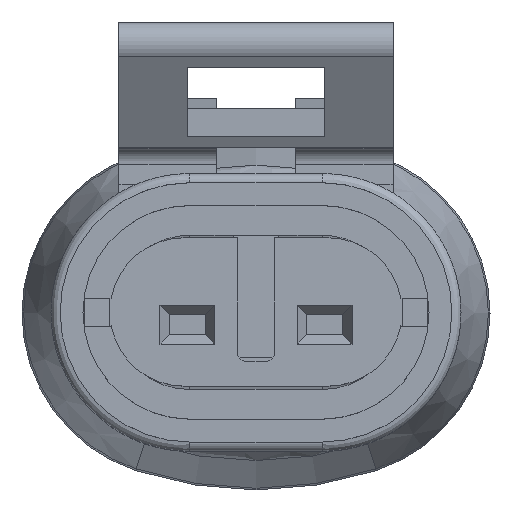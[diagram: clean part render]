
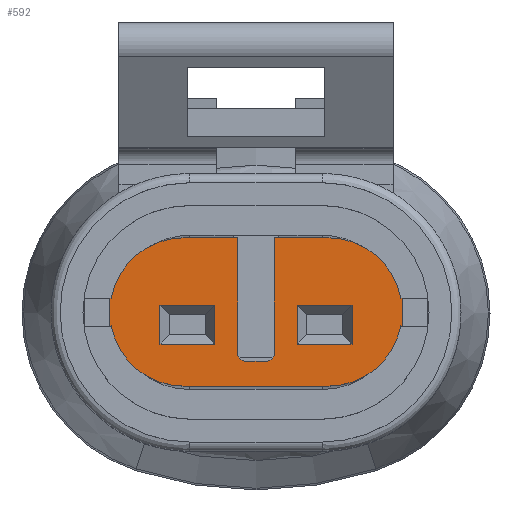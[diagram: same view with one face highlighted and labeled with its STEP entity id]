
A CAD part, top view. The second image highlights one B-rep face of the part: STEP entity #592.
In plain terms, the highlighted planar face has unit normal (0, 0, 1).
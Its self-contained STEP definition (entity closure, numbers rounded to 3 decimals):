
#166=FACE_BOUND('',#1115,.T.);
#167=FACE_BOUND('',#1116,.T.);
#168=FACE_BOUND('',#1117,.T.);
#354=PLANE('',#4914);
#592=ADVANCED_FACE('',(#166,#167,#168),#354,.T.);
#1115=EDGE_LOOP('',(#3022,#3023,#3024,#3025));
#1116=EDGE_LOOP('',(#3026,#3027,#3028,#3029));
#1117=EDGE_LOOP('',(#3030,#3031,#3032,#3033,#3034,#3035,#3036,#3037,#3038,
#3039,#3040,#3041,#3042,#3043,#3044,#3045,#3046,#3047));
#1199=LINE('',#6324,#1636);
#1202=LINE('',#6330,#1639);
#1205=LINE('',#6336,#1642);
#1207=LINE('',#6339,#1644);
#1219=LINE('',#6364,#1656);
#1222=LINE('',#6370,#1659);
#1225=LINE('',#6376,#1662);
#1227=LINE('',#6379,#1664);
#1239=LINE('',#6404,#1676);
#1242=LINE('',#6410,#1679);
#1246=LINE('',#6424,#1683);
#1250=LINE('',#6438,#1687);
#1253=LINE('',#6444,#1690);
#1536=LINE('',#7826,#1973);
#1554=LINE('',#7861,#1991);
#1561=LINE('',#7880,#1998);
#1567=LINE('',#7898,#2004);
#1568=LINE('',#7900,#2005);
#1569=LINE('',#7902,#2006);
#1570=LINE('',#7904,#2007);
#1636=VECTOR('',#5047,1.);
#1639=VECTOR('',#5052,1.);
#1642=VECTOR('',#5057,1.);
#1644=VECTOR('',#5061,1.);
#1656=VECTOR('',#5083,1.);
#1659=VECTOR('',#5088,1.);
#1662=VECTOR('',#5093,1.);
#1664=VECTOR('',#5097,1.);
#1676=VECTOR('',#5119,1.);
#1679=VECTOR('',#5124,1.);
#1683=VECTOR('',#5135,1.);
#1687=VECTOR('',#5146,1.);
#1690=VECTOR('',#5151,1.);
#1973=VECTOR('',#5907,1.);
#1991=VECTOR('',#5939,1.);
#1998=VECTOR('',#5954,1.);
#2004=VECTOR('',#5976,1.);
#2005=VECTOR('',#5979,1.);
#2006=VECTOR('',#5980,1.);
#2007=VECTOR('',#5981,1.);
#3022=ORIENTED_EDGE('',*,*,#3809,.T.);
#3023=ORIENTED_EDGE('',*,*,#3812,.T.);
#3024=ORIENTED_EDGE('',*,*,#3815,.T.);
#3025=ORIENTED_EDGE('',*,*,#3817,.T.);
#3026=ORIENTED_EDGE('',*,*,#3829,.T.);
#3027=ORIENTED_EDGE('',*,*,#3832,.T.);
#3028=ORIENTED_EDGE('',*,*,#3835,.T.);
#3029=ORIENTED_EDGE('',*,*,#3837,.T.);
#3030=ORIENTED_EDGE('',*,*,#4307,.T.);
#3031=ORIENTED_EDGE('',*,*,#4305,.T.);
#3032=ORIENTED_EDGE('',*,*,#3849,.T.);
#3033=ORIENTED_EDGE('',*,*,#3852,.T.);
#3034=ORIENTED_EDGE('',*,*,#3855,.T.);
#3035=ORIENTED_EDGE('',*,*,#3858,.T.);
#3036=ORIENTED_EDGE('',*,*,#3861,.T.);
#3037=ORIENTED_EDGE('',*,*,#3864,.T.);
#3038=ORIENTED_EDGE('',*,*,#3867,.T.);
#3039=ORIENTED_EDGE('',*,*,#3868,.T.);
#3040=ORIENTED_EDGE('',*,*,#4308,.T.);
#3041=ORIENTED_EDGE('',*,*,#4309,.T.);
#3042=ORIENTED_EDGE('',*,*,#4310,.T.);
#3043=ORIENTED_EDGE('',*,*,#4293,.T.);
#3044=ORIENTED_EDGE('',*,*,#4297,.T.);
#3045=ORIENTED_EDGE('',*,*,#4298,.T.);
#3046=ORIENTED_EDGE('',*,*,#4288,.T.);
#3047=ORIENTED_EDGE('',*,*,#4270,.T.);
#3384=VERTEX_POINT('',#6319);
#3386=VERTEX_POINT('',#6323);
#3388=VERTEX_POINT('',#6329);
#3390=VERTEX_POINT('',#6335);
#3396=VERTEX_POINT('',#6359);
#3398=VERTEX_POINT('',#6363);
#3400=VERTEX_POINT('',#6369);
#3402=VERTEX_POINT('',#6375);
#3408=VERTEX_POINT('',#6399);
#3410=VERTEX_POINT('',#6403);
#3412=VERTEX_POINT('',#6409);
#3414=VERTEX_POINT('',#6415);
#3416=VERTEX_POINT('',#6423);
#3418=VERTEX_POINT('',#6429);
#3420=VERTEX_POINT('',#6437);
#3422=VERTEX_POINT('',#6443);
#3423=VERTEX_POINT('',#6447);
#3692=VERTEX_POINT('',#7821);
#3694=VERTEX_POINT('',#7825);
#3705=VERTEX_POINT('',#7862);
#3709=VERTEX_POINT('',#7871);
#3710=VERTEX_POINT('',#7873);
#3712=VERTEX_POINT('',#7879);
#3716=VERTEX_POINT('',#7895);
#3717=VERTEX_POINT('',#7901);
#3718=VERTEX_POINT('',#7903);
#3809=EDGE_CURVE('',#3384,#3386,#1199,.T.);
#3812=EDGE_CURVE('',#3386,#3388,#1202,.T.);
#3815=EDGE_CURVE('',#3388,#3390,#1205,.T.);
#3817=EDGE_CURVE('',#3390,#3384,#1207,.T.);
#3829=EDGE_CURVE('',#3396,#3398,#1219,.T.);
#3832=EDGE_CURVE('',#3398,#3400,#1222,.T.);
#3835=EDGE_CURVE('',#3400,#3402,#1225,.T.);
#3837=EDGE_CURVE('',#3402,#3396,#1227,.T.);
#3849=EDGE_CURVE('',#3408,#3410,#1239,.T.);
#3852=EDGE_CURVE('',#3410,#3412,#1242,.T.);
#3855=EDGE_CURVE('',#3412,#3414,#4454,.T.);
#3858=EDGE_CURVE('',#3414,#3416,#1246,.T.);
#3861=EDGE_CURVE('',#3416,#3418,#4456,.T.);
#3864=EDGE_CURVE('',#3418,#3420,#1250,.T.);
#3867=EDGE_CURVE('',#3420,#3422,#1253,.T.);
#3868=EDGE_CURVE('',#3422,#3423,#4457,.T.);
#4270=EDGE_CURVE('',#3692,#3694,#1536,.T.);
#4288=EDGE_CURVE('',#3705,#3692,#1554,.T.);
#4293=EDGE_CURVE('',#3710,#3709,#4567,.T.);
#4297=EDGE_CURVE('',#3709,#3712,#1561,.T.);
#4298=EDGE_CURVE('',#3712,#3705,#4568,.T.);
#4305=EDGE_CURVE('',#3716,#3408,#4571,.T.);
#4307=EDGE_CURVE('',#3694,#3716,#1567,.T.);
#4308=EDGE_CURVE('',#3423,#3717,#1568,.T.);
#4309=EDGE_CURVE('',#3717,#3718,#1569,.T.);
#4310=EDGE_CURVE('',#3718,#3710,#1570,.T.);
#4454=CIRCLE('',#4656,0.3);
#4456=CIRCLE('',#4659,0.3);
#4457=CIRCLE('',#4662,3.25);
#4567=CIRCLE('',#4903,3.25);
#4568=CIRCLE('',#4906,3.25);
#4571=CIRCLE('',#4911,3.25);
#4656=AXIS2_PLACEMENT_3D('',#6416,#5130,#5131);
#4659=AXIS2_PLACEMENT_3D('',#6430,#5141,#5142);
#4662=AXIS2_PLACEMENT_3D('',#6446,#5154,#5155);
#4903=AXIS2_PLACEMENT_3D('',#7872,#5947,#5948);
#4906=AXIS2_PLACEMENT_3D('',#7882,#5957,#5958);
#4911=AXIS2_PLACEMENT_3D('',#7894,#5971,#5972);
#4914=AXIS2_PLACEMENT_3D('',#7905,#5982,#5983);
#5047=DIRECTION('',(1.,0.,0.));
#5052=DIRECTION('',(0.,-1.,0.));
#5057=DIRECTION('',(-1.,0.,0.));
#5061=DIRECTION('',(0.,1.,0.));
#5083=DIRECTION('',(1.,0.,0.));
#5088=DIRECTION('',(0.,-1.,0.));
#5093=DIRECTION('',(-1.,0.,0.));
#5097=DIRECTION('',(0.,1.,0.));
#5119=DIRECTION('',(-1.,0.,0.));
#5124=DIRECTION('',(0.,-1.,0.));
#5130=DIRECTION('',(0.,0.,-1.));
#5131=DIRECTION('',(1.,0.,0.));
#5135=DIRECTION('',(-1.,0.,0.));
#5141=DIRECTION('',(0.,0.,-1.));
#5142=DIRECTION('',(0.,-1.,0.));
#5146=DIRECTION('',(0.,1.,0.));
#5151=DIRECTION('',(-1.,0.,0.));
#5154=DIRECTION('',(0.,0.,1.));
#5155=DIRECTION('',(0.,1.,0.));
#5907=DIRECTION('',(0.,1.,0.));
#5939=DIRECTION('',(1.,0.,0.));
#5947=DIRECTION('',(0.,0.,1.));
#5948=DIRECTION('',(-0.983,-0.185,0.));
#5954=DIRECTION('',(1.,0.,0.));
#5957=DIRECTION('',(0.,0.,1.));
#5958=DIRECTION('',(0.,-1.,0.));
#5971=DIRECTION('',(0.,0.,1.));
#5972=DIRECTION('',(0.983,0.185,0.));
#5976=DIRECTION('',(-1.,0.,0.));
#5979=DIRECTION('',(-1.,0.,0.));
#5980=DIRECTION('',(0.,-1.,0.));
#5981=DIRECTION('',(1.,0.,0.));
#5982=DIRECTION('',(0.,0.,1.));
#5983=DIRECTION('',(1.,0.,0.));
#6319=CARTESIAN_POINT('',(-4.204,0.304,28.15));
#6323=CARTESIAN_POINT('',(-1.796,0.304,28.15));
#6324=CARTESIAN_POINT('',(-4.204,0.304,28.15));
#6329=CARTESIAN_POINT('',(-1.796,-1.404,28.15));
#6330=CARTESIAN_POINT('',(-1.796,0.304,28.15));
#6335=CARTESIAN_POINT('',(-4.204,-1.404,28.15));
#6336=CARTESIAN_POINT('',(-1.796,-1.404,28.15));
#6339=CARTESIAN_POINT('',(-4.204,-1.404,28.15));
#6359=CARTESIAN_POINT('',(1.796,0.304,28.15));
#6363=CARTESIAN_POINT('',(4.204,0.304,28.15));
#6364=CARTESIAN_POINT('',(1.796,0.304,28.15));
#6369=CARTESIAN_POINT('',(4.204,-1.404,28.15));
#6370=CARTESIAN_POINT('',(4.204,0.304,28.15));
#6375=CARTESIAN_POINT('',(1.796,-1.404,28.15));
#6376=CARTESIAN_POINT('',(4.204,-1.404,28.15));
#6379=CARTESIAN_POINT('',(1.796,-1.404,28.15));
#6399=CARTESIAN_POINT('',(3.15,3.25,28.15));
#6403=CARTESIAN_POINT('',(0.8,3.25,28.15));
#6404=CARTESIAN_POINT('',(3.15,3.25,28.15));
#6409=CARTESIAN_POINT('',(0.8,-1.85,28.15));
#6410=CARTESIAN_POINT('',(0.8,3.25,28.15));
#6415=CARTESIAN_POINT('',(0.5,-2.15,28.15));
#6416=CARTESIAN_POINT('',(0.5,-1.85,28.15));
#6423=CARTESIAN_POINT('',(-0.5,-2.15,28.15));
#6424=CARTESIAN_POINT('',(0.5,-2.15,28.15));
#6429=CARTESIAN_POINT('',(-0.8,-1.85,28.15));
#6430=CARTESIAN_POINT('',(-0.5,-1.85,28.15));
#6437=CARTESIAN_POINT('',(-0.8,3.25,28.15));
#6438=CARTESIAN_POINT('',(-0.8,-1.85,28.15));
#6443=CARTESIAN_POINT('',(-3.15,3.25,28.15));
#6444=CARTESIAN_POINT('',(-0.8,3.25,28.15));
#6446=CARTESIAN_POINT('',(-3.15,0.,28.15));
#6447=CARTESIAN_POINT('',(-6.344,0.6,28.15));
#7821=CARTESIAN_POINT('',(6.4,-0.6,28.15));
#7825=CARTESIAN_POINT('',(6.4,0.6,28.15));
#7826=CARTESIAN_POINT('',(6.4,-0.6,28.15));
#7861=CARTESIAN_POINT('',(6.344,-0.6,28.15));
#7862=CARTESIAN_POINT('',(6.344,-0.6,28.15));
#7871=CARTESIAN_POINT('',(-3.15,-3.25,28.15));
#7872=CARTESIAN_POINT('',(-3.15,0.,28.15));
#7873=CARTESIAN_POINT('',(-6.344,-0.6,28.15));
#7879=CARTESIAN_POINT('',(3.15,-3.25,28.15));
#7880=CARTESIAN_POINT('',(-3.15,-3.25,28.15));
#7882=CARTESIAN_POINT('',(3.15,0.,28.15));
#7894=CARTESIAN_POINT('',(3.15,0.,28.15));
#7895=CARTESIAN_POINT('',(6.344,0.6,28.15));
#7898=CARTESIAN_POINT('',(6.4,0.6,28.15));
#7900=CARTESIAN_POINT('',(-6.344,0.6,28.15));
#7901=CARTESIAN_POINT('',(-6.4,0.6,28.15));
#7902=CARTESIAN_POINT('',(-6.4,0.6,28.15));
#7903=CARTESIAN_POINT('',(-6.4,-0.6,28.15));
#7904=CARTESIAN_POINT('',(-6.4,-0.6,28.15));
#7905=CARTESIAN_POINT('',(-7.04,-3.575,28.15));
